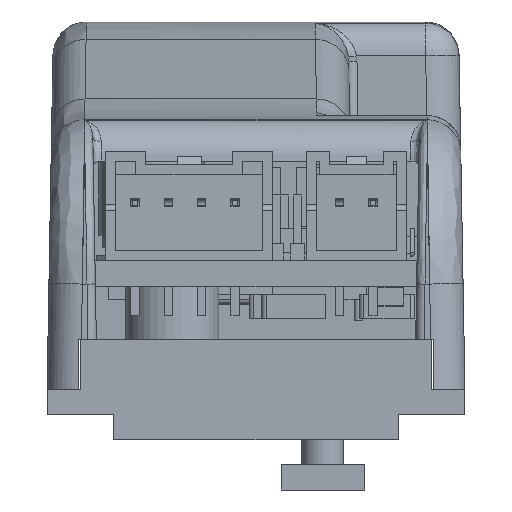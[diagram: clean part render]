
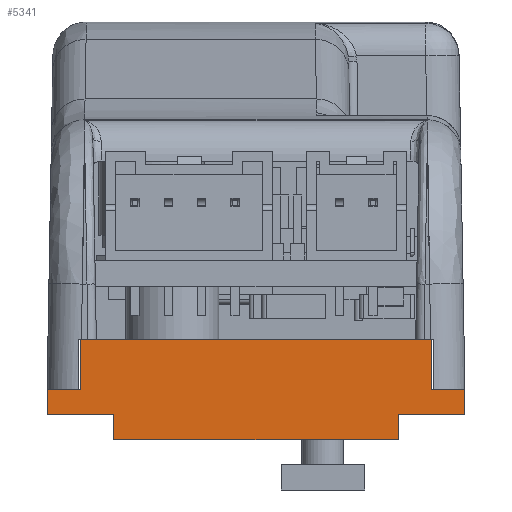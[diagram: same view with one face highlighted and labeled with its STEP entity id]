
A CAD part, left-side view. The second image highlights one B-rep face of the part: STEP entity #5341.
In plain terms, the highlighted planar face has unit normal (-1, 0, 0).
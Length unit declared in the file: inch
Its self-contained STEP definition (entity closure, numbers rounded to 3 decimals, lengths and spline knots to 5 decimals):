
#4971=CARTESIAN_POINT('',(-1.21799,0.49213,-0.30511));
#4972=VERTEX_POINT('',#4971);
#4973=CARTESIAN_POINT('',(-1.21799,0.41339,-0.30511));
#4974=VERTEX_POINT('',#4973);
#4975=CARTESIAN_POINT('',(-1.21799,0.49213,-0.30511));
#4976=DIRECTION('',(0.0,-1.0,0.0));
#4977=VECTOR('',#4976,0.07874);
#4978=LINE('',#4975,#4977);
#4979=EDGE_CURVE('',#4972,#4974,#4978,.T.);
#5002=CARTESIAN_POINT('',(-1.21799,0.41339,-0.187));
#5003=VERTEX_POINT('',#5002);
#5004=CARTESIAN_POINT('',(-1.21799,0.41339,-0.30511));
#5005=DIRECTION('',(0.0,0.0,1.0));
#5006=VECTOR('',#5005,0.11811);
#5007=LINE('',#5004,#5006);
#5008=EDGE_CURVE('',#4974,#5003,#5007,.T.);
#5026=CARTESIAN_POINT('',(-1.21799,-0.41339,-0.187));
#5027=VERTEX_POINT('',#5026);
#5028=CARTESIAN_POINT('',(-1.21799,0.41339,-0.187));
#5029=DIRECTION('',(0.0,-1.0,0.0));
#5030=VECTOR('',#5029,0.82677);
#5031=LINE('',#5028,#5030);
#5032=EDGE_CURVE('',#5003,#5027,#5031,.T.);
#5087=CARTESIAN_POINT('',(-1.21799,-0.41339,-0.30511));
#5088=VERTEX_POINT('',#5087);
#5089=CARTESIAN_POINT('',(-1.21799,-0.41339,-0.187));
#5090=DIRECTION('',(0.0,0.0,-1.0));
#5091=VECTOR('',#5090,0.11811);
#5092=LINE('',#5089,#5091);
#5093=EDGE_CURVE('',#5027,#5088,#5092,.T.);
#5111=CARTESIAN_POINT('',(-1.21799,-0.49213,-0.30511));
#5112=VERTEX_POINT('',#5111);
#5113=CARTESIAN_POINT('',(-1.21799,-0.41339,-0.30511));
#5114=DIRECTION('',(0.0,-1.0,0.0));
#5115=VECTOR('',#5114,0.07874);
#5116=LINE('',#5113,#5115);
#5117=EDGE_CURVE('',#5088,#5112,#5116,.T.);
#5135=CARTESIAN_POINT('',(-1.21799,-0.49213,-0.36417));
#5136=VERTEX_POINT('',#5135);
#5137=CARTESIAN_POINT('',(-1.21799,-0.49213,-0.30511));
#5138=DIRECTION('',(0.0,0.0,-1.0));
#5139=VECTOR('',#5138,0.05906);
#5140=LINE('',#5137,#5139);
#5141=EDGE_CURVE('',#5112,#5136,#5140,.T.);
#5159=CARTESIAN_POINT('',(-1.21799,-0.33465,-0.36417));
#5160=VERTEX_POINT('',#5159);
#5161=CARTESIAN_POINT('',(-1.21799,-0.49213,-0.36417));
#5162=DIRECTION('',(0.0,1.0,0.0));
#5163=VECTOR('',#5162,0.15748);
#5164=LINE('',#5161,#5163);
#5165=EDGE_CURVE('',#5136,#5160,#5164,.T.);
#5183=CARTESIAN_POINT('',(-1.21799,-0.33465,-0.42322));
#5184=VERTEX_POINT('',#5183);
#5185=CARTESIAN_POINT('',(-1.21799,-0.33465,-0.36417));
#5186=DIRECTION('',(0.0,0.0,-1.0));
#5187=VECTOR('',#5186,0.05906);
#5188=LINE('',#5185,#5187);
#5189=EDGE_CURVE('',#5160,#5184,#5188,.T.);
#5207=CARTESIAN_POINT('',(-1.21799,0.33465,-0.42322));
#5208=VERTEX_POINT('',#5207);
#5209=CARTESIAN_POINT('',(-1.21799,-0.33465,-0.42322));
#5210=DIRECTION('',(0.0,1.0,0.0));
#5211=VECTOR('',#5210,0.66929);
#5212=LINE('',#5209,#5211);
#5213=EDGE_CURVE('',#5184,#5208,#5212,.T.);
#5262=CARTESIAN_POINT('',(-1.21799,0.33465,-0.36417));
#5263=VERTEX_POINT('',#5262);
#5264=CARTESIAN_POINT('',(-1.21799,0.33465,-0.42322));
#5265=DIRECTION('',(0.0,0.0,1.0));
#5266=VECTOR('',#5265,0.05906);
#5267=LINE('',#5264,#5266);
#5268=EDGE_CURVE('',#5208,#5263,#5267,.T.);
#5286=CARTESIAN_POINT('',(-1.21799,0.49213,-0.36417));
#5287=VERTEX_POINT('',#5286);
#5288=CARTESIAN_POINT('',(-1.21799,0.33465,-0.36417));
#5289=DIRECTION('',(0.0,1.0,0.0));
#5290=VECTOR('',#5289,0.15748);
#5291=LINE('',#5288,#5290);
#5292=EDGE_CURVE('',#5263,#5287,#5291,.T.);
#5310=CARTESIAN_POINT('',(-1.21799,0.49213,-0.36417));
#5311=DIRECTION('',(0.0,0.0,1.0));
#5312=VECTOR('',#5311,0.05906);
#5313=LINE('',#5310,#5312);
#5314=EDGE_CURVE('',#5287,#4972,#5313,.T.);
#5322=CARTESIAN_POINT('',(-1.21799,0.,-0.30511));
#5323=DIRECTION('',(-1.0,0.0,0.0));
#5324=DIRECTION('',(0.0,-1.0,0.0));
#5325=AXIS2_PLACEMENT_3D('',#5322,#5323,#5324);
#5326=PLANE('',#5325);
#5327=ORIENTED_EDGE('',*,*,#4979,.F.);
#5328=ORIENTED_EDGE('',*,*,#5314,.F.);
#5329=ORIENTED_EDGE('',*,*,#5292,.F.);
#5330=ORIENTED_EDGE('',*,*,#5268,.F.);
#5331=ORIENTED_EDGE('',*,*,#5213,.F.);
#5332=ORIENTED_EDGE('',*,*,#5189,.F.);
#5333=ORIENTED_EDGE('',*,*,#5165,.F.);
#5334=ORIENTED_EDGE('',*,*,#5141,.F.);
#5335=ORIENTED_EDGE('',*,*,#5117,.F.);
#5336=ORIENTED_EDGE('',*,*,#5093,.F.);
#5337=ORIENTED_EDGE('',*,*,#5032,.F.);
#5338=ORIENTED_EDGE('',*,*,#5008,.F.);
#5339=EDGE_LOOP('',(#5327,#5328,#5329,#5330,#5331,#5332,#5333,#5334,#5335,#5336,#5337,#5338));
#5340=FACE_OUTER_BOUND('',#5339,.T.);
#5341=ADVANCED_FACE('',(#5340),#5326,.T.);
